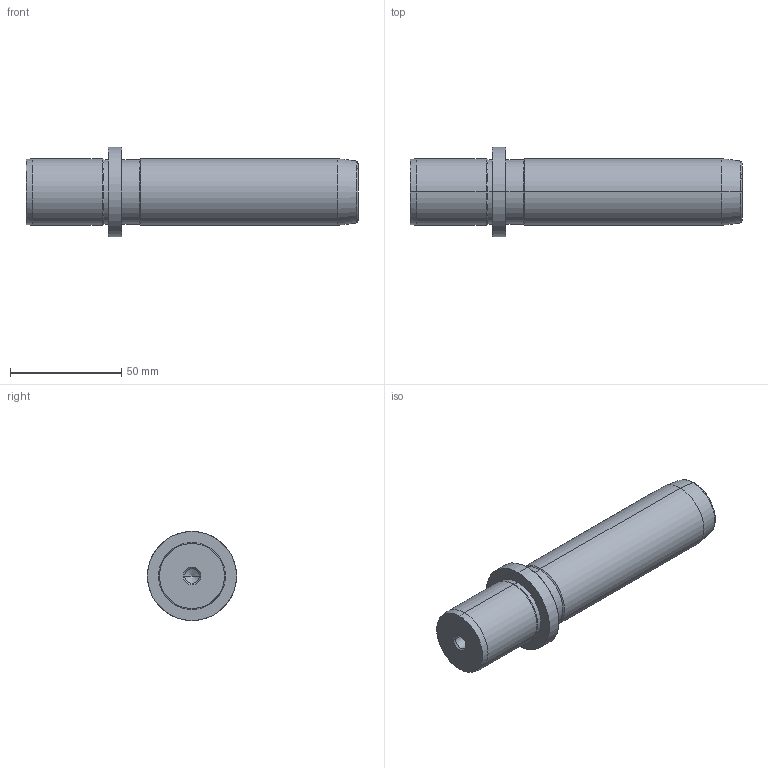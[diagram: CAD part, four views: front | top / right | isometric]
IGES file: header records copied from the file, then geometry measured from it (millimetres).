
Start section: START RECORD GO HERE.
Global section: file name: 719-30x112.igs; native system: DASSAULT SYSTEMES CATIA V5 R20 - www.3ds.com; preprocessor: CATIA Version 5 Release 20 ; author: Utente; organization: NB04-ASUS; date: 20210103.171040; units: millimetre
Bounding box: 149 x 40 x 40 mm (x, y, z)
Surface area: 17623.9 mm2 (no closed solid volume)
Topology: 0 solids, 0 shells, 36 faces, 196 edges, 192 vertices
Faces by surface type: revolution 32, plane 4
